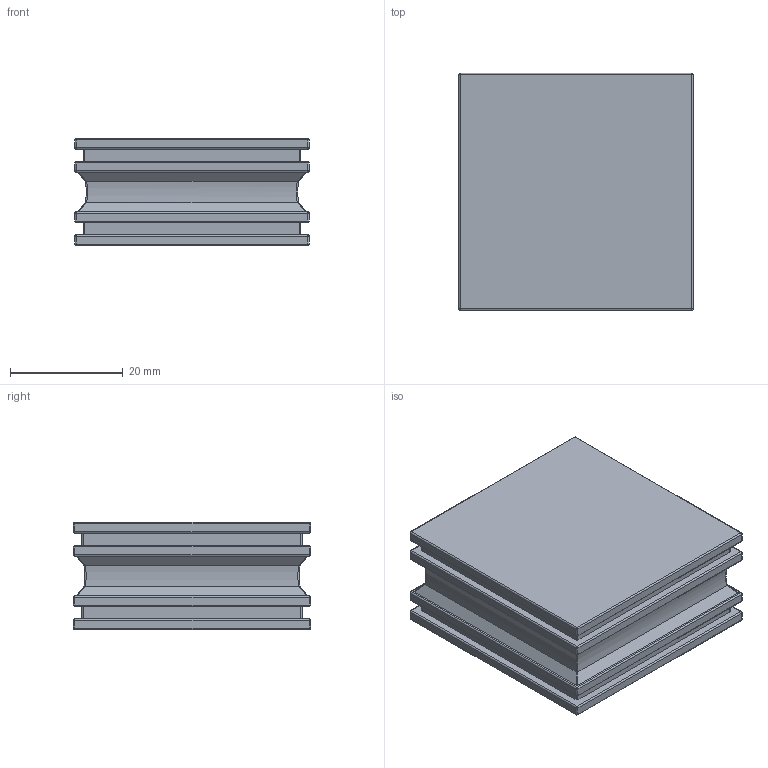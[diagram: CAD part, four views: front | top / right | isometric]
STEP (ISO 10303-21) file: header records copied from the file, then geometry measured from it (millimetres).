
FILE_DESCRIPTION (( 'STEP AP203' ), '1' );
FILE_NAME ('BTG.STEP', '2021-05-12T06:45:01', ( '' ), ( '' ), 'SwSTEP 2.0', 'SolidWorks 2016', '' );
FILE_SCHEMA (( 'CONFIG_CONTROL_DESIGN' ));
Length unit declared in the file: millimetre
Products named in the file (1): BTG
Bounding box: 41.5 x 42 x 19 mm (x, y, z)
Volume: 30238.3 mm3; surface area: 7669.9 mm2
Topology: 1 solids, 1 shells, 200 faces, 495 edges, 276 vertices
Faces by surface type: plane 77, cylinder 69, bspline 54
Entity records: 7036 total; most frequent: CARTESIAN_POINT 2746, ORIENTED_EDGE 926, DIRECTION 787, EDGE_CURVE 463, VERTEX_POINT 276, VECTOR 265, LINE 265, AXIS2_PLACEMENT_3D 261
